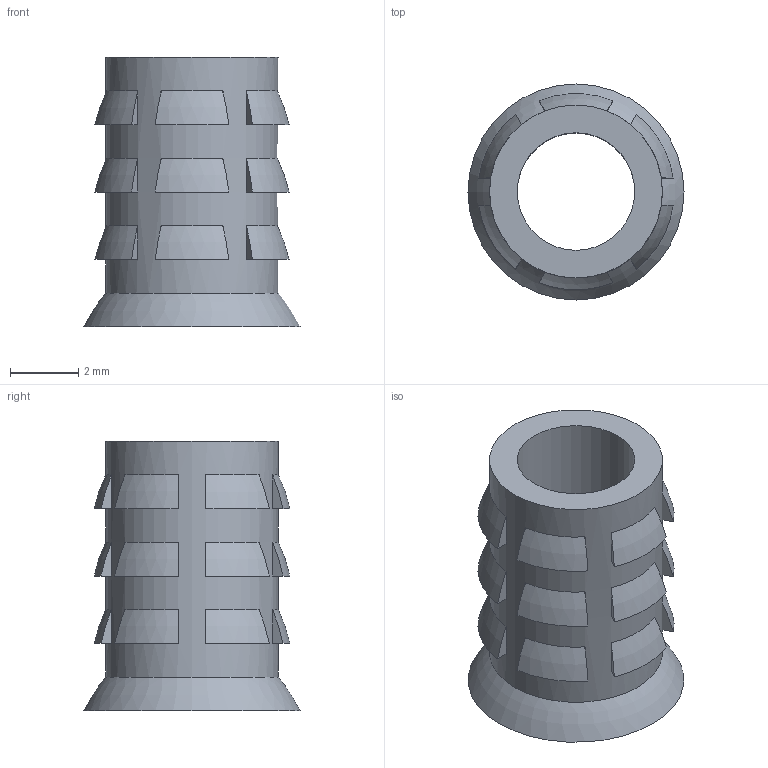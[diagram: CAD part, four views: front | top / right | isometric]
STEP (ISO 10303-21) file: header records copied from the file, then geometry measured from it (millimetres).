
FILE_DESCRIPTION (( 'STEP AP214' ), '1' );
FILE_NAME ('insert 8-32.STEP', '2017-08-09T11:40:43', ( '微软用户' ), ( '微软中国' ), 'SwSTEP 2.0', 'SolidWorks 2015', '' );
FILE_SCHEMA (( 'AUTOMOTIVE_DESIGN' ));
Length unit declared in the file: millimetre
Products named in the file (1): insert 8-32
Bounding box: 6.35 x 6.35 x 7.92 mm (x, y, z)
Volume: 98.2 mm3; surface area: 274.1 mm2
Topology: 1 solids, 1 shells, 78 faces, 172 edges, 114 vertices
Faces by surface type: plane 56, torus 19, cylinder 2, cone 1
Full cylindrical faces by diameter (mm): 3.454 x1, 5.08 x1
Entity records: 2238 total; most frequent: CARTESIAN_POINT 493, DIRECTION 350, ORIENTED_EDGE 336, EDGE_CURVE 168, AXIS2_PLACEMENT_3D 139, VERTEX_POINT 114, EDGE_LOOP 102, FACE_OUTER_BOUND 81
